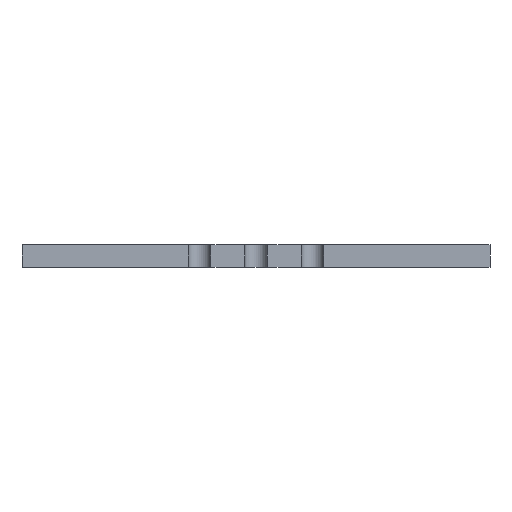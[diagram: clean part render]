
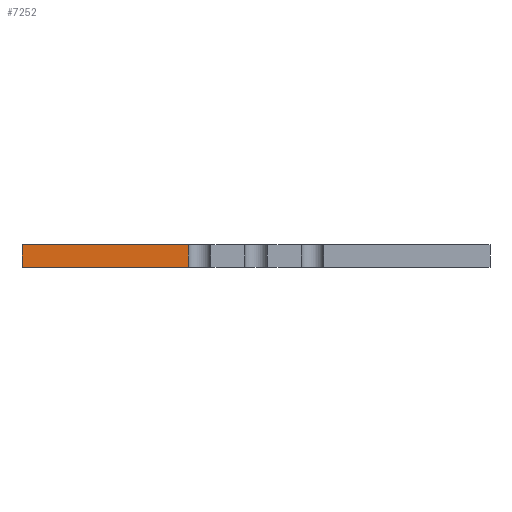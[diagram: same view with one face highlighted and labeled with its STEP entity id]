
A CAD part, front view. The second image highlights one B-rep face of the part: STEP entity #7252.
In plain terms, the highlighted planar face has unit normal (0, -1, 0).
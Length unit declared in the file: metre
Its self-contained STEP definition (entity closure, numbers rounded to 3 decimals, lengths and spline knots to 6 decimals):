
#1608=ORIENTED_EDGE('',*,*,#2481,.F.);
#1609=ORIENTED_EDGE('',*,*,#2488,.F.);
#1610=ORIENTED_EDGE('',*,*,#3314,.F.);
#1611=ORIENTED_EDGE('',*,*,#2527,.T.);
#1612=ORIENTED_EDGE('',*,*,#2517,.T.);
#1613=ORIENTED_EDGE('',*,*,#3315,.F.);
#1614=ORIENTED_EDGE('',*,*,#3316,.F.);
#1615=ORIENTED_EDGE('',*,*,#3181,.T.);
#2481=EDGE_CURVE('',#3468,#3465,#4165,.T.);
#2488=EDGE_CURVE('',#3475,#3468,#4170,.T.);
#2517=EDGE_CURVE('',#3495,#3498,#4191,.T.);
#2527=EDGE_CURVE('',#3505,#3495,#4197,.T.);
#3181=EDGE_CURVE('',#4013,#3465,#4651,.T.);
#3314=EDGE_CURVE('',#3505,#3475,#4700,.T.);
#3315=EDGE_CURVE('',#4142,#3498,#4701,.T.);
#3316=EDGE_CURVE('',#4013,#4142,#4702,.T.);
#3465=VERTEX_POINT('',#11860);
#3468=VERTEX_POINT('',#11865);
#3475=VERTEX_POINT('',#11881);
#3495=VERTEX_POINT('',#11935);
#3498=VERTEX_POINT('',#11940);
#3505=VERTEX_POINT('',#11959);
#4013=VERTEX_POINT('',#13315);
#4142=VERTEX_POINT('',#13581);
#4165=LINE('',#11866,#4849);
#4170=LINE('',#11882,#4854);
#4191=LINE('',#11941,#4875);
#4197=LINE('',#11961,#4881);
#4651=LINE('',#13314,#5335);
#4700=LINE('',#13579,#5384);
#4701=LINE('',#13580,#5385);
#4702=LINE('',#13582,#5386);
#4849=VECTOR('',#9841,1.);
#4854=VECTOR('',#9854,1.);
#4875=VECTOR('',#9905,1.);
#4881=VECTOR('',#9925,1.);
#5335=VECTOR('',#11163,1.);
#5384=VECTOR('',#11386,1.);
#5385=VECTOR('',#11387,1.);
#5386=VECTOR('',#11388,1.);
#5827=EDGE_LOOP('',(#1608,#1609,#1610,#1611,#1612,#1613,#1614,#1615));
#6343=FACE_BOUND('',#5827,.T.);
#6707=PLANE('',#9646);
#7252=ADVANCED_FACE('',(#6343),#6707,.T.);
#9646=AXIS2_PLACEMENT_3D('',#13578,#11384,#11385);
#9841=DIRECTION('',(0.,0.,-1.));
#9854=DIRECTION('',(-1.,0.,0.));
#9905=DIRECTION('',(0.,0.,1.));
#9925=DIRECTION('',(-1.,0.,0.));
#11163=DIRECTION('',(1.,0.,0.));
#11384=DIRECTION('',(0.,-1.,0.));
#11385=DIRECTION('',(1.,0.,0.));
#11386=DIRECTION('',(0.,0.,-1.));
#11387=DIRECTION('',(1.,0.,0.));
#11388=DIRECTION('',(0.,0.,1.));
#11860=CARTESIAN_POINT('',(-0.00334,-0.0255,-0.0005));
#11865=CARTESIAN_POINT('',(-0.00334,-0.0255,-0.000499));
#11866=CARTESIAN_POINT('',(-0.00334,-0.0255,-0.000499));
#11881=CARTESIAN_POINT('',(-0.00304,-0.0255,-0.000499));
#11882=CARTESIAN_POINT('',(-0.0089,-0.0255,-0.000499));
#11935=CARTESIAN_POINT('',(-0.00334,-0.0255,0.000499));
#11940=CARTESIAN_POINT('',(-0.00334,-0.0255,0.0005));
#11941=CARTESIAN_POINT('',(-0.00334,-0.0255,-0.0005));
#11959=CARTESIAN_POINT('',(-0.00304,-0.0255,0.000499));
#11961=CARTESIAN_POINT('',(-0.0105,-0.0255,0.000499));
#13314=CARTESIAN_POINT('',(-0.0105,-0.0255,-0.0005));
#13315=CARTESIAN_POINT('',(-0.0105,-0.0255,-0.0005));
#13578=CARTESIAN_POINT('',(-0.0105,-0.0255,-0.0005));
#13579=CARTESIAN_POINT('',(-0.00304,-0.0255,0.0005));
#13580=CARTESIAN_POINT('',(-0.0105,-0.0255,0.0005));
#13581=CARTESIAN_POINT('',(-0.0105,-0.0255,0.0005));
#13582=CARTESIAN_POINT('',(-0.0105,-0.0255,-0.0005));
